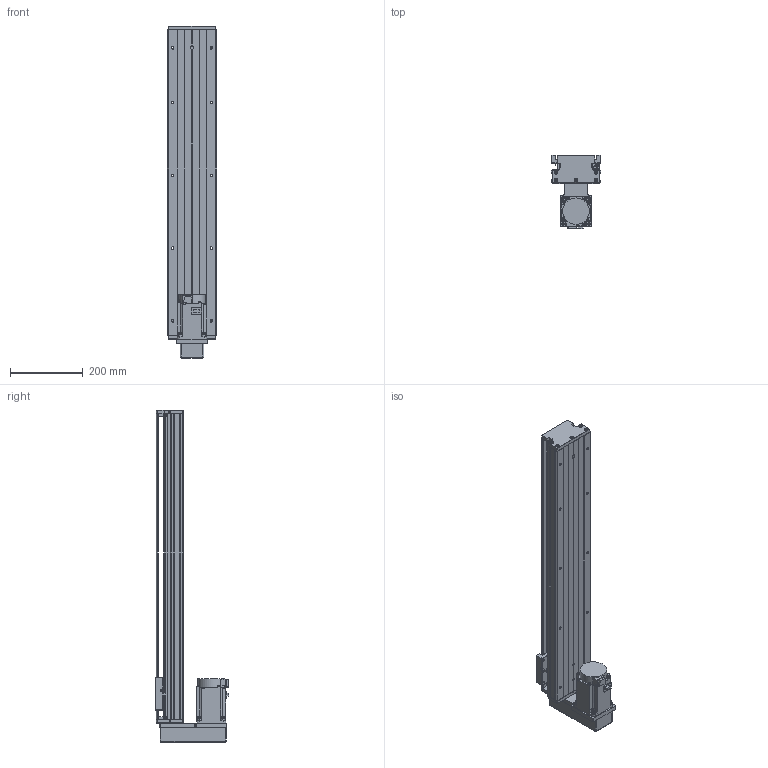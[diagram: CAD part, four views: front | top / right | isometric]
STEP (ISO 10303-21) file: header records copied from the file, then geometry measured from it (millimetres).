
FILE_DESCRIPTION (( 'STEP AP203' ), '1' );
FILE_NAME ('KTH130-700-BM-M75-C4.step', '2023-06-30T04:38:27', ( '微软用户' ), ( '微软中国' ), 'SwSTEP 2.0', 'SolidWorks 2020', '' );
FILE_SCHEMA (( 'CONFIG_CONTROL_DESIGN' ));
Length unit declared in the file: millimetre
Products named in the file (18): す晦芛蹟隊 M3℅5; GBT 70.2-M3¡Á5_M3¡Á6; GBT 70.3-M3℅8; GTH14-001_700; CTHA60-017; hg-kn73j_-s100; KTH130-002_KTH130-002; EE_SX911P_R; CTHA86-015-3_CTHA86-015-4; KTH130-004; CTHA60-016; CTHA86-035; KTH130-005; GBT 70.1-M3℅5; KTH130-700-BM-M75-C4; GB1155-6X6; GBT77-2000 M3×3; GBT70.1 M5℅16
Assembly tree (49 placements, depth 2):
  KTH130-700-BM-M75-C4
    GTH14-001_700
    KTH130-002_KTH130-002
    KTH130-004
    KTH130-005
    GB1155-6X6  x2
    GBT70.1 M5℅16  x10
    GBT 70.2-M3¡Á5_M3¡Á6  x4
    CTHA60-017  x3
    EE_SX911P_R  x3
    CTHA60-016  x2
    GBT 70.1-M3℅5  x6
    GBT77-2000 M3×3  x6
    す晦芛蹟隊 M3℅5  x2
    GBT 70.3-M3℅8  x4
    hg-kn73j_-s100
    CTHA86-015-3_CTHA86-015-4
    CTHA86-035
Bounding box: 135 x 202.8 x 912 mm (x, y, z)
Volume: 5977032.1 mm3; surface area: 859989.1 mm2
Topology: 52 solids, 52 shells, 2192 faces, 5316 edges, 3327 vertices
Faces by surface type: plane 1208, cylinder 630, cone 238, torus 100, sphere 16
Entity records: 39945 total; most frequent: CARTESIAN_POINT 6722, DIRECTION 6577, ORIENTED_EDGE 6136, EDGE_CURVE 3068, AXIS2_PLACEMENT_3D 2300, VECTOR 1977, LINE 1977, VERTEX_POINT 1961
